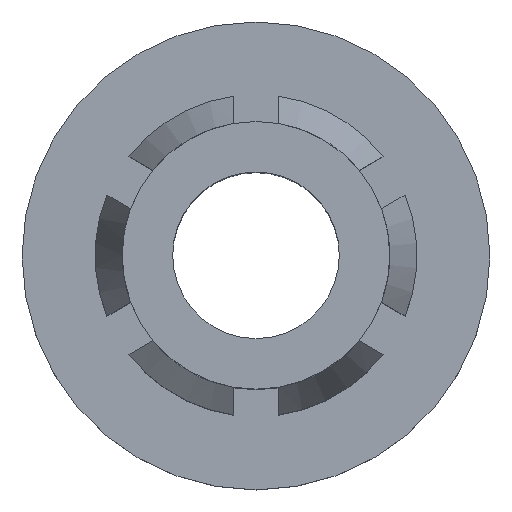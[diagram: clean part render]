
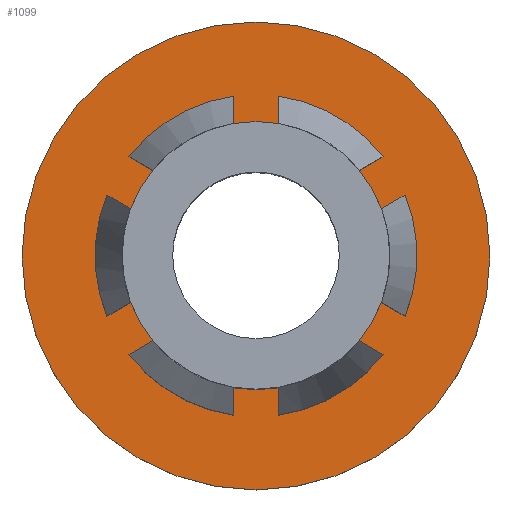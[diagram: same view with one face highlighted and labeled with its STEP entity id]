
A CAD part, top view. The second image highlights one B-rep face of the part: STEP entity #1099.
In plain terms, the highlighted planar face has unit normal (0, 0, 1).
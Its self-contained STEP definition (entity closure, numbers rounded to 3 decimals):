
#34 = AXIS2_PLACEMENT_3D ( 'NONE', #1520, #674, #906 ) ;
#79 = FACE_BOUND ( 'NONE', #806, .T. ) ;
#88 = AXIS2_PLACEMENT_3D ( 'NONE', #1020, #554, #1043 ) ;
#204 = EDGE_CURVE ( 'NONE', #1287, #1287, #525, .T. ) ;
#269 = EDGE_CURVE ( 'NONE', #950, #950, #472, .T. ) ;
#401 = CARTESIAN_POINT ( 'NONE',  ( 7.122, 0., -18.201 ) ) ;
#445 = CARTESIAN_POINT ( 'NONE',  ( 12.113, 0., -18.201 ) ) ;
#472 = CIRCLE ( 'NONE', #34, 1.816 ) ;
#525 = CIRCLE ( 'NONE', #88, 3.175 ) ;
#554 = DIRECTION ( 'NONE',  ( 0., 0., -1. ) ) ;
#566 = EDGE_LOOP ( 'NONE', ( #925 ) ) ;
#674 = DIRECTION ( 'NONE',  ( 0., 0., -1. ) ) ;
#806 = EDGE_LOOP ( 'NONE', ( #1494 ) ) ;
#906 = DIRECTION ( 'NONE',  ( -1., 0., 0. ) ) ;
#913 = AXIS2_PLACEMENT_3D ( 'NONE', #445, #1337, #1362 ) ;
#925 = ORIENTED_EDGE ( 'NONE', *, *, #204, .F. ) ;
#950 = VERTEX_POINT ( 'NONE', #401 ) ;
#1020 = CARTESIAN_POINT ( 'NONE',  ( 8.938, 0., -18.201 ) ) ;
#1043 = DIRECTION ( 'NONE',  ( -1., 0., 0. ) ) ;
#1099 = ADVANCED_FACE ( 'NONE', ( #79, #1107 ), #1441, .F. ) ;
#1107 = FACE_OUTER_BOUND ( 'NONE', #566, .T. ) ;
#1287 = VERTEX_POINT ( 'NONE', #1376 ) ;
#1337 = DIRECTION ( 'NONE',  ( 0., 0., -1. ) ) ;
#1362 = DIRECTION ( 'NONE',  ( -1., 0., 0. ) ) ;
#1376 = CARTESIAN_POINT ( 'NONE',  ( 5.763, 0., -18.201 ) ) ;
#1441 = PLANE ( 'NONE',  #913 ) ;
#1494 = ORIENTED_EDGE ( 'NONE', *, *, #269, .T. ) ;
#1520 = CARTESIAN_POINT ( 'NONE',  ( 8.938, 0., -18.201 ) ) ;
